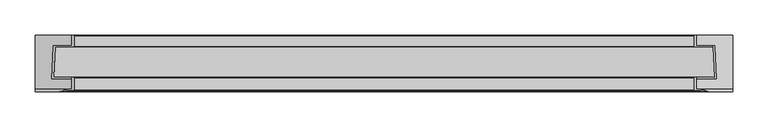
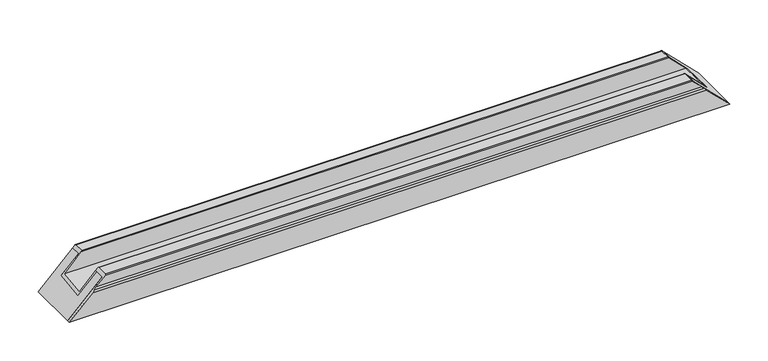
"""IFC4 building model written with IfcOpenShell, lengths in millimetres: proxy geometry, Weiku - Montante - Caixilho duplo 02.2.01.002 : Weiku - Montante - Caixilho duplo 02.2.01.002."""

from ifc_helpers import new_model, si_unit, frame, origin, place, context, project, spatial, polyline, ellipse_curve, faceted_brep, source, transform, mapped, element, save
from ifc_brep_helpers import plane_surface, cylinder_surface, revolved_surface, advanced_brep


def generic_models_290f3b25(model_context):
    return source(origin(), model_context, "Body", "SolidModel", [
        advanced_brep(
        [(-445.5, -60.0, 52.0), (-445.5, -77.0, 52.0), (-497.5, -77.0, 0.0), (-497.5, -81.0, 0.0), (-462.5, -81.0, 35.0), (-459.5, -80.0, 38.0), (-456.5, -79.0, 41.0), (-442.5, -79.0, 55.0), (-441.5, -78.0, 56.0), (-441.5, -61.0, 56.0), (-442.5, -60.0, 55.0), (442.5, -60.0, 55.0), (445.5, -60.0, 52.0), (441.5, -61.0, 56.0), (441.5, -78.0, 56.0), (442.5, -79.0, 55.0), (456.5, -79.0, 41.0), (459.5, -80.0, 38.0), (462.5, -81.0, 35.0), (497.5, -81.0, 0.0), (497.5, -77.0, 0.0), (445.5, -77.0, 52.0)],
        [
            (0, 1),
            (1, 2),
            (2, 3),
            (3, 4),
            (4, 5, ellipse_curve(frame((-462.5, -76.0, 35.0), z_axis=(-0.707106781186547, 0.0, 0.7071067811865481), x_axis=(-0.7071067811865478, 0.0, -0.707106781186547)), 7.0710678, 5.0)),
            (5, 6, ellipse_curve(frame((-456.5, -84.0, 41.0), z_axis=(0.707106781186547, 0.0, -0.7071067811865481), x_axis=(0.7071067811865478, 0.0, 0.707106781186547)), 7.0710678, 5.0)),
            (6, 7),
            (7, 8, ellipse_curve(frame((-442.5, -78.0, 55.0), z_axis=(-0.707106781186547, 0.0, 0.7071067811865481), x_axis=(-0.7071067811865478, 0.0, -0.707106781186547)), 1.4142136, 1.0)),
            (8, 9),
            (9, 10, ellipse_curve(frame((-442.5, -61.0, 55.0), z_axis=(-0.707106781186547, 0.0, 0.7071067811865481), x_axis=(-0.7071067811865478, 0.0, -0.707106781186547)), 1.4142136, 1.0)),
            (10, 0),
            (10, 11),
            (11, 12),
            (12, 0),
            (9, 13),
            (13, 11, ellipse_curve(frame((442.5, -61.0, 55.0), z_axis=(-0.7071067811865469, 0.0, -0.7071067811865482), x_axis=(-0.707106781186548, 0.0, 0.7071067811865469)), 1.4142136, 1.0)),
            (8, 14),
            (14, 13),
            (7, 15),
            (15, 14, ellipse_curve(frame((442.5, -78.0, 55.0), z_axis=(-0.7071067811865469, 0.0, -0.7071067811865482), x_axis=(-0.707106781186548, 0.0, 0.7071067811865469)), 1.4142136, 1.0)),
            (6, 16),
            (16, 15),
            (5, 17),
            (17, 16, ellipse_curve(frame((456.5, -84.0, 41.0), z_axis=(0.7071067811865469, 0.0, 0.7071067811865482), x_axis=(0.707106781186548, 0.0, -0.7071067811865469)), 7.0710678, 5.0)),
            (4, 18),
            (18, 17, ellipse_curve(frame((462.5, -76.0, 35.0), z_axis=(-0.7071067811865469, 0.0, -0.7071067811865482), x_axis=(-0.707106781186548, 0.0, 0.7071067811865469)), 7.0710678, 5.0)),
            (19, 18),
            (3, 19),
            (2, 20),
            (20, 19),
            (1, 21),
            (21, 20),
            (12, 21),
        ],
        [
            plane_surface(frame((-497.5, 0.0, 0.0), z_axis=(-0.707106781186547, 0.0, 0.7071067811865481), x_axis=(0.0, -1.0, 0.0))),
            plane_surface(frame((-497.5, -60.0, 52.0), z_axis=(0.0, 1.0, 0.0), x_axis=(1.0, 0.0, 0.0))),
            cylinder_surface(frame((-497.5, -61.0, 55.0), z_axis=(-1.0, 0.0, 0.0), x_axis=(0.0, -1.0, 0.0)), 1.0),
            plane_surface(frame((-497.5, -61.0, 56.0), z_axis=(0.0, 0.0, 1.0), x_axis=(1.0, 0.0, 0.0))),
            cylinder_surface(frame((-497.5, -78.0, 55.0), z_axis=(-1.0, 0.0, 0.0), x_axis=(0.0, -1.0, 0.0)), 1.0),
            plane_surface(frame((-497.5, -79.0, 55.0), z_axis=(0.0, -1.0, 0.0), x_axis=(1.0, 0.0, 0.0))),
            revolved_surface(polyline([(461.4999999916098, -89.0, 41.0), (-461.49999999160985, -89.0, 41.0)]), (-497.5, -84.0, 41.0), (1.0, 0.0, 0.0)),
            cylinder_surface(frame((-497.5, -76.0, 35.0), z_axis=(-1.0, 0.0, 0.0), x_axis=(0.0, -1.0, 0.0)), 5.0),
            plane_surface(frame((-497.5, -81.0, 35.0), z_axis=(0.0, -1.0, 0.0), x_axis=(1.0, 0.0, 0.0))),
            plane_surface(frame((-497.5, -81.0, 0.0), z_axis=(0.0, 0.0, -1.0), x_axis=(1.0, 0.0, 0.0))),
            plane_surface(frame((-497.5, -77.0, 0.0), z_axis=(0.0, 1.0, 0.0), x_axis=(1.0, 0.0, 0.0))),
            plane_surface(frame((-497.5, -77.0, 52.0), z_axis=(0.0, 0.0, -1.0), x_axis=(1.0, 0.0, 0.0))),
            plane_surface(frame((427.5, 0.0, 70.0), z_axis=(0.7071067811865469, 0.0, 0.7071067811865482), x_axis=(0.0, -1.0, 0.0))),
        ],
        [
            (0, [[1, 2, 3, 4, 5, 6, 7, 8, 9, 10, 11]]),
            (1, [[12, 13, 14, -11]]),
            (2, [[15, 16, -12, -10]]),
            (3, [[17, 18, -15, -9]]),
            (4, [[19, 20, -17, -8]]),
            (5, [[21, 22, -19, -7]]),
            (6, [[23, 24, -21, -6]]),
            (7, [[25, 26, -23, -5]]),
            (8, [[27, -25, -4, 28]]),
            (9, [[-3, 29, 30, -28]]),
            (10, [[-2, 31, 32, -29]]),
            (11, [[-14, 33, -31, -1]]),
            (12, [[-16, -18, -20, -22, -24, -26, -27, -30, -32, -33, -13]]),
        ],
    ),
        advanced_brep(
        [(-445.5, -15.0, 52.0), (-471.5, -15.0, 26.0), (-473.7229744, -62.0, 23.7770256), (-445.5, -62.0, 52.0), (-445.5, -60.0, 52.0), (-470.6250261, -60.0, 26.8749739), (-468.591241, -17.0, 28.908759), (-442.5, -17.0, 55.0), (-441.5, -16.0, 56.0), (-441.5, -1.0, 56.0), (-442.5, 0.0, 55.0), (-445.5, 0.0, 52.0), (445.5, 0.0, 52.0), (445.5, -15.0, 52.0), (442.5, 0.0, 55.0), (441.5, -1.0, 56.0), (441.5, -16.0, 56.0), (442.5, -17.0, 55.0), (468.591241, -17.0, 28.908759), (470.6250261, -60.0, 26.8749739), (445.5, -60.0, 52.0), (445.5, -62.0, 52.0), (473.7229744, -62.0, 23.7770256), (471.5, -15.0, 26.0)],
        [
            (0, 1),
            (1, 2),
            (2, 3),
            (3, 4),
            (4, 5),
            (5, 6),
            (6, 7),
            (7, 8, ellipse_curve(frame((-442.5, -16.0, 55.0), z_axis=(-0.707106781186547, 0.0, 0.7071067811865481), x_axis=(-0.7071067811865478, 0.0, -0.707106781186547)), 1.4142136, 1.0)),
            (8, 9),
            (9, 10, ellipse_curve(frame((-442.5, -1.0, 55.0), z_axis=(-0.707106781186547, 0.0, 0.7071067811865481), x_axis=(-0.7071067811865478, 0.0, -0.707106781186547)), 1.4142136, 1.0)),
            (10, 11),
            (11, 0),
            (11, 12),
            (12, 13),
            (13, 0),
            (10, 14),
            (14, 12),
            (9, 15),
            (15, 14, ellipse_curve(frame((442.5, -1.0, 55.0), z_axis=(-0.7071067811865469, 0.0, -0.7071067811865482), x_axis=(-0.707106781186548, 0.0, 0.7071067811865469)), 1.4142136, 1.0)),
            (8, 16),
            (16, 15),
            (7, 17),
            (17, 16, ellipse_curve(frame((442.5, -16.0, 55.0), z_axis=(-0.7071067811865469, 0.0, -0.7071067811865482), x_axis=(-0.707106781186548, 0.0, 0.7071067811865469)), 1.4142136, 1.0)),
            (6, 18),
            (18, 17),
            (5, 19),
            (19, 18),
            (4, 20),
            (20, 19),
            (3, 21),
            (21, 20),
            (2, 22),
            (22, 21),
            (1, 23),
            (23, 22),
            (13, 23),
        ],
        [
            plane_surface(frame((-497.5, 0.0, 0.0), z_axis=(-0.707106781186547, 0.0, 0.7071067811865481), x_axis=(0.0, -1.0, 0.0))),
            plane_surface(frame((-497.5, -15.0, 52.0), z_axis=(0.0, 0.0, -1.0), x_axis=(1.0, 0.0, 0.0))),
            plane_surface(frame((-497.5, 0.0, 52.0), z_axis=(0.0, 1.0, 0.0), x_axis=(1.0, 0.0, 0.0))),
            cylinder_surface(frame((-497.5, -1.0, 55.0), z_axis=(-1.0, 0.0, 0.0), x_axis=(0.0, -1.0, 0.0)), 1.0),
            plane_surface(frame((-497.5, -1.0, 56.0), z_axis=(0.0, 0.0, 1.0), x_axis=(1.0, 0.0, 0.0))),
            cylinder_surface(frame((-497.5, -16.0, 55.0), z_axis=(-1.0, 0.0, 0.0), x_axis=(0.0, -1.0, 0.0)), 1.0),
            plane_surface(frame((-497.5, -17.0, 55.0), z_axis=(0.0, -1.0, 0.0), x_axis=(1.0, 0.0, 0.0))),
            plane_surface(frame((-497.5, -17.0, 28.908759), z_axis=(0.0, -0.0472445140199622, 0.9988833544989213), x_axis=(1.0, 0.0, 0.0))),
            plane_surface(frame((-497.5, -60.0, 26.8749739), z_axis=(0.0, 1.0, 0.0), x_axis=(1.0, 0.0, 0.0))),
            plane_surface(frame((-497.5, -60.0, 52.0), z_axis=(0.0, 0.0, 1.0), x_axis=(1.0, 0.0, 0.0))),
            plane_surface(frame((-497.5, -62.0, 52.0), z_axis=(0.0, -1.0, 0.0), x_axis=(1.0, 0.0, 0.0))),
            plane_surface(frame((-497.5, -62.0, 23.7770256), z_axis=(0.0, 0.047244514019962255, -0.9988833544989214), x_axis=(1.0, 0.0, 0.0))),
            plane_surface(frame((-497.5, -15.0, 26.0), z_axis=(0.0, 1.0, 0.0), x_axis=(1.0, 0.0, 0.0))),
            plane_surface(frame((427.5, 0.0, 70.0), z_axis=(0.7071067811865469, 0.0, 0.7071067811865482), x_axis=(0.0, -1.0, 0.0))),
        ],
        [
            (0, [[1, 2, 3, 4, 5, 6, 7, 8, 9, 10, 11, 12]]),
            (1, [[13, 14, 15, -12]]),
            (2, [[16, 17, -13, -11]]),
            (3, [[18, 19, -16, -10]]),
            (4, [[20, 21, -18, -9]]),
            (5, [[22, 23, -20, -8]]),
            (6, [[24, 25, -22, -7]]),
            (7, [[26, 27, -24, -6]]),
            (8, [[28, 29, -26, -5]]),
            (9, [[30, 31, -28, -4]]),
            (10, [[32, 33, -30, -3]]),
            (11, [[34, 35, -32, -2]]),
            (12, [[-15, 36, -34, -1]]),
            (13, [[-17, -19, -21, -23, -25, -27, -29, -31, -33, -35, -36, -14]]),
        ],
    ),
        faceted_brep([(-471.5, -15.0, 26.0), (471.5, -15.0, 26.0), (445.5, -15.0, 52.0), (-445.5, -15.0, 52.0), (-473.7229744, -62.0, 23.7770256), (473.7229744, -62.0, 23.7770256), (-445.5, -62.0, 52.0), (445.5, -62.0, 52.0), (-445.5, -77.0, 52.0), (445.5, -77.0, 52.0), (497.5, -77.0, 0.0), (-497.5, -77.0, 0.0), (-497.5, 0.0, 0.0), (497.5, 0.0, 0.0), (-445.5, 0.0, 52.0), (445.5, 0.0, 52.0)], [[[0, 1, 2, 3]], [[4, 5, 1, 0]], [[6, 7, 5, 4]], [[8, 9, 7, 6]], [[10, 9, 8, 11]], [[11, 12, 13, 10]], [[12, 14, 15, 13]], [[3, 2, 15, 14]], [[3, 14, 12, 11, 8, 6, 4, 0]], [[1, 5, 7, 9, 10, 13, 15, 2]]]),
    ])


if __name__ == "__main__":
    model = new_model("IFC4")
    model_context = context("Model", 3, world=origin())
    ifc_project = project(units=[si_unit("LENGTHUNIT", "METRE", prefix="MILLI")], contexts=[model_context])
    site = spatial("IfcSite", under=ifc_project)
    building = spatial("IfcBuilding", under=site)
    placement = place(None, origin())
    generic_models_shape = generic_models_290f3b25(model_context)
    element("IfcBuildingElementProxy", 1, Name="Weiku - Montante - Caixilho duplo 02.2.01.002 : Weiku - Montante - Caixilho duplo 02.2.01.002", ObjectType="Weiku - Montante - Caixilho duplo 02.2.01.002 : Weiku - Montante - Caixilho duplo 02.2.01.002", at=placement, inside=building, context=model_context, shape_type="MappedRepresentation", body=[
        mapped(generic_models_shape, transform((0.0, 0.0, 0.0), x_axis=(1.0, 0.0, 0.0), y_axis=(0.0, 1.0, 0.0), z_axis=(0.0, 0.0, 1.0))),
    ])
    save(model, "model.ifc")
